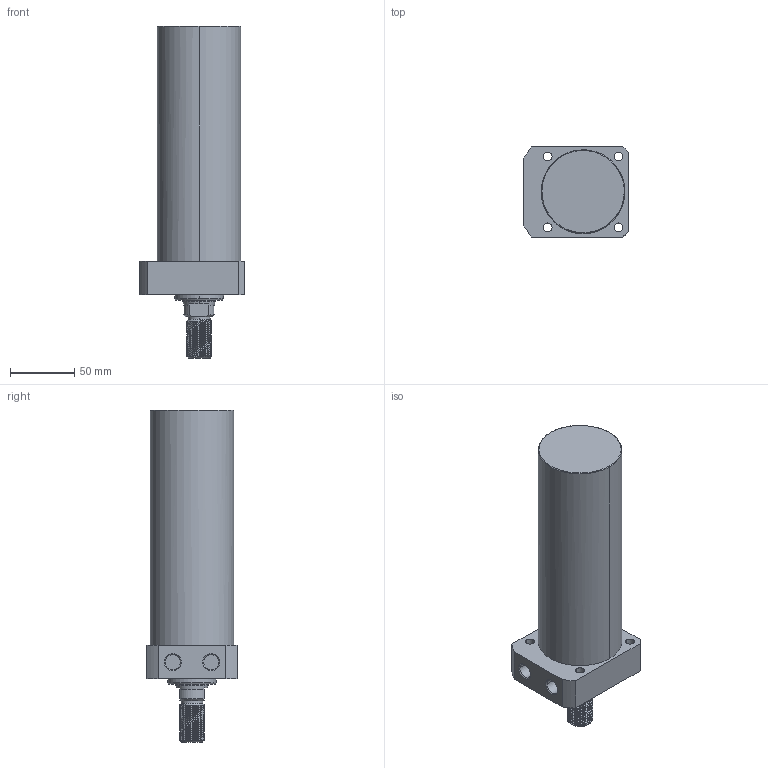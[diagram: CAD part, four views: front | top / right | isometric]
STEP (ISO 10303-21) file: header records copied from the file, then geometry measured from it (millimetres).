
FILE_DESCRIPTION((' '),'2;1');
FILE_NAME( 'TLLR-065CT-150.STEP.stp', '2025-10-24T16:35:02', (' '), ('--- Datakit www.datakit.com---'), ' Datakit CrossCadWare V2024.1 Dec 21 2023', 'Mastercam 2025', ' ');
FILE_SCHEMA(('AUTOMOTIVE_DESIGN { 1 0 10303 214 1 1 1 1 }'));
Length unit declared in the file: millimetre
Products named in the file (1): TLLR-065CT-150
Bounding box: 81 x 70 x 258 mm (x, y, z)
Volume: 763737.9 mm3; surface area: 63948.1 mm2
Topology: 1 solids, 1 shells, 106 faces, 382 edges, 286 vertices
Faces by surface type: cylinder 66, plane 20, cone 16, bspline 2, torus 2
Entity records: 12428 total; most frequent: CARTESIAN_POINT 9170, ORIENTED_EDGE 764, DIRECTION 533, EDGE_CURVE 382, VERTEX_POINT 286, AXIS2_PLACEMENT_3D 215, B_SPLINE_CURVE_WITH_KNOTS 169, EDGE_LOOP 122
